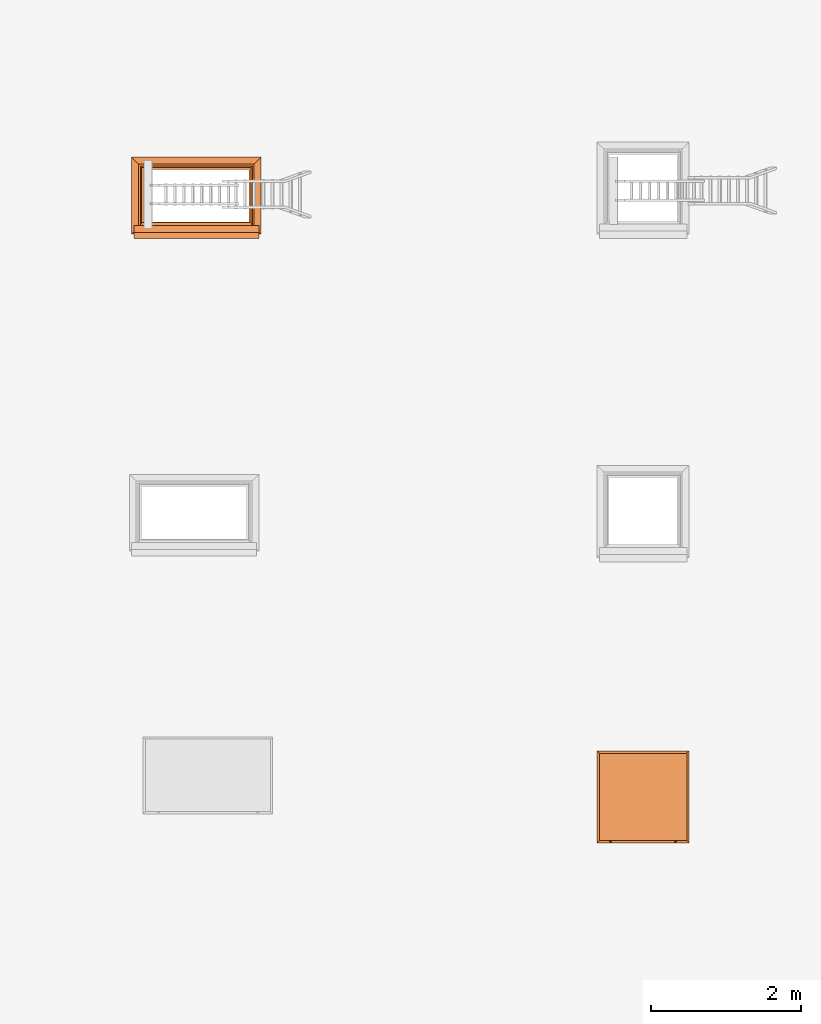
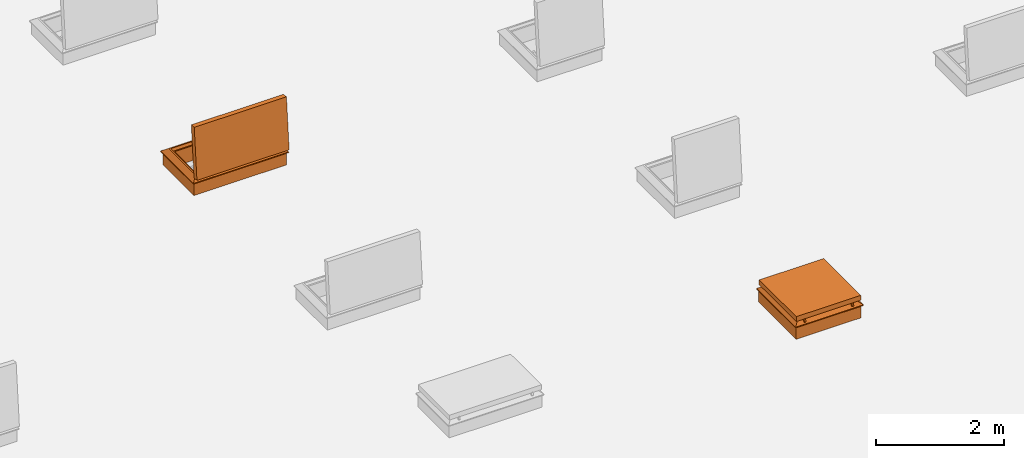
# One storey, part 23 of 28: 2 proxies.
"""IFC2X3 building model written with IfcOpenShell, lengths in millimetres."""

from ifc_helpers import new_model, entity, si_unit, converted_unit, derived_unit, direction, frame, origin, place, context, subcontext, project, spatial, faceted_brep, source, transform, mapped, type_object, type_shapes, element, save


model = new_model("IFC2X3")

# Units and contexts
model_context = context("Model", 3, precision=0.01, world=origin(), true_north=direction((6.12303176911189e-17, 1.0)))
body_context = subcontext(model_context, "Body", "Model", "MODEL_VIEW")
ifc_project = project(units=[si_unit("LENGTHUNIT", "METRE", prefix="MILLI"), si_unit("AREAUNIT", "SQUARE_METRE"), si_unit("VOLUMEUNIT", "CUBIC_METRE"), converted_unit("PLANEANGLEUNIT", "DEGREE", entity("IfcRatioMeasure", 0.0174532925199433), si_unit("PLANEANGLEUNIT", "RADIAN"), dimensions=[0, 0, 0, 0, 0, 0, 0]), si_unit("MASSUNIT", "GRAM", prefix="KILO"), derived_unit("MASSDENSITYUNIT", [(si_unit("MASSUNIT", "GRAM", prefix="KILO"), 1), (si_unit("LENGTHUNIT", "METRE"), -3)]), si_unit("TIMEUNIT", "SECOND"), si_unit("FREQUENCYUNIT", "HERTZ"), si_unit("THERMODYNAMICTEMPERATUREUNIT", "DEGREE_CELSIUS"), derived_unit("THERMALTRANSMITTANCEUNIT", [(si_unit("MASSUNIT", "GRAM", prefix="KILO"), 1), (si_unit("THERMODYNAMICTEMPERATUREUNIT", "KELVIN"), -1), (si_unit("TIMEUNIT", "SECOND"), -3)]), derived_unit("VOLUMETRICFLOWRATEUNIT", [(si_unit("LENGTHUNIT", "METRE"), 3), (si_unit("TIMEUNIT", "SECOND"), -1)]), si_unit("ELECTRICCURRENTUNIT", "AMPERE"), si_unit("ELECTRICVOLTAGEUNIT", "VOLT"), si_unit("POWERUNIT", "WATT"), si_unit("FORCEUNIT", "NEWTON", prefix="KILO"), si_unit("ILLUMINANCEUNIT", "LUX"), si_unit("LUMINOUSFLUXUNIT", "LUMEN"), si_unit("LUMINOUSINTENSITYUNIT", "CANDELA"), derived_unit("USERDEFINED", [(si_unit("MASSUNIT", "GRAM", prefix="KILO"), -1), (si_unit("LENGTHUNIT", "METRE"), -2), (si_unit("TIMEUNIT", "SECOND"), 3), (si_unit("LUMINOUSFLUXUNIT", "LUMEN"), 1)]), derived_unit("LINEARVELOCITYUNIT", [(si_unit("LENGTHUNIT", "METRE"), 1), (si_unit("TIMEUNIT", "SECOND"), -1)]), si_unit("PRESSUREUNIT", "PASCAL"), derived_unit("USERDEFINED", [(si_unit("LENGTHUNIT", "METRE"), -2), (si_unit("MASSUNIT", "GRAM", prefix="KILO"), 1), (si_unit("TIMEUNIT", "SECOND"), -2)])], contexts=[model_context])

# Site, building, storey
site_placement = place(None, origin())
site = spatial("IfcSite", under=ifc_project, at=site_placement, Name="Default", CompositionType="ELEMENT")
building_placement = place(site_placement, origin())
building = spatial("IfcBuilding", under=site, at=building_placement, CompositionType="ELEMENT")
storey_placement = place(building_placement, frame((0.0, 0.0, 4000.0)))
storey = spatial("IfcBuildingStorey", under=building, at=storey_placement, Name="Level 2", CompositionType="ELEMENT", Elevation=4000.0)

# Proxies
building_element_proxy_type_1 = type_object("IfcBuildingElementProxyType", Name="1400 x 700 2part Stair", PredefinedType="NOTDEFINED")
shared_shape_1 = source(origin(), body_context, "Body", "Brep", [
    faceted_brep([(-1499.57464776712, -351.993124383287, 340.652428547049), (-1499.57464776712, -350.619817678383, 341.518171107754), (-1499.57464776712, -349.079207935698, 342.030033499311), (-1499.57464776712, -347.460863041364, 342.158257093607), (-1499.57464776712, -345.858870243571, 341.89538723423), (-1499.57464776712, -344.366366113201, 341.256706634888), (-1499.57464776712, -343.070121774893, 340.279346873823), (-1499.57464776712, -342.045498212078, 339.020129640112), (-1499.57464776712, -341.352064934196, 337.552263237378), (-1499.57464776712, -341.030136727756, 335.961086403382), (-1499.57464776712, -341.098429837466, 334.339106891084), (-1499.57464776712, -340.635094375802, 329.90669213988), (-1499.57464776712, -337.979621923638, 326.327663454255), (-1499.57464776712, -304.11313780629, 313.826813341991), (-1499.57464776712, -350.965266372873, 276.345110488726), (-1499.57464776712, -360.90830222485, 288.773905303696), (-1499.57464776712, -361.276948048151, 290.251026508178), (-1499.57464776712, -361.242166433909, 291.7730570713), (-1499.57464776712, -353.932832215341, 338.078280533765), (-1499.57464776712, -353.119286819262, 339.483138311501), (-1472.20689636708, -337.979621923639, 326.327663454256), (-1472.20689636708, -304.113137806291, 313.826813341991), (-1472.20689636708, -350.965266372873, 276.345110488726), (-1472.20689636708, -360.90830222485, 288.773905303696), (-1489.14512741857, -360.908302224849, 288.773905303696), (-1488.70057290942, -361.276948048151, 290.251026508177), (-1472.20689636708, -361.276948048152, 290.251026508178), (-1472.20689636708, -361.242166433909, 291.7730570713), (-1489.14512741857, -361.242166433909, 291.7730570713), (-1472.20689636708, -353.932832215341, 338.078280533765), (-1472.20689636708, -353.119286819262, 339.483138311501), (-1472.20689636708, -351.993124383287, 340.652428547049), (-1472.20689636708, -350.619817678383, 341.518171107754), (-1472.20689636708, -349.079207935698, 342.030033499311), (-1472.20689636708, -347.460863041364, 342.158257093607), (-1472.20689636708, -345.858870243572, 341.89538723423), (-1472.20689636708, -343.070121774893, 340.279346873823), (-1472.20689636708, -344.366366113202, 341.256706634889), (-1472.20689636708, -342.045498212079, 339.020129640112), (-1472.20689636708, -341.352064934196, 337.552263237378), (-1472.20689636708, -341.030136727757, 335.961086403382), (-1472.20689636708, -341.098429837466, 334.339106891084), (-1472.20689636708, -340.635094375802, 329.90669213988)], [[[0, 1, 2, 3, 4, 5, 6, 7, 8, 9, 10, 11, 12, 13, 14, 15, 16, 17, 18, 19]], [[13, 12, 20, 21]], [[14, 13, 21, 22]], [[14, 22, 23, 24, 15]], [[25, 16, 15, 24, 23, 26]], [[25, 26, 27, 28, 17, 16]], [[18, 17, 28, 27, 29]], [[30, 19, 18, 29]], [[31, 0, 19, 30]], [[2, 1, 32, 33]], [[31, 32, 1, 0]], [[3, 2, 33, 34]], [[4, 3, 34, 35]], [[36, 6, 5, 37]], [[38, 7, 6, 36]], [[9, 8, 39, 40]], [[38, 39, 8, 7]], [[10, 9, 40, 41]], [[37, 5, 4, 35]], [[41, 42, 11, 10]], [[20, 12, 11, 42]], [[22, 21, 20, 42, 41, 40, 39, 38, 36, 37, 35, 34, 33, 32, 31, 30, 29, 27, 26, 23]]]),
    faceted_brep([(-182.337074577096, -360.908302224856, 288.773905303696), (-182.337074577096, -350.965266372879, 276.345110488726), (-152.350888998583, -350.965266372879, 276.345110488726), (-152.350888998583, -360.908302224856, 288.773905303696), (-161.478030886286, -360.908302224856, 288.773905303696), (-171.90755260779, -360.908302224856, 288.773905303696), (-182.337074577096, -304.113137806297, 313.826813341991), (-152.350888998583, -304.113137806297, 313.826813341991), (-182.337074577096, -337.979621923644, 326.327663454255), (-152.350888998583, -337.979621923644, 326.327663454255), (-152.350888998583, -341.098429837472, 334.339106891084), (-152.350888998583, -340.635094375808, 329.90669213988), (-182.337074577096, -340.635094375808, 329.90669213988), (-182.337074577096, -341.098429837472, 334.339106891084), (-152.350888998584, -353.119286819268, 339.483138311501), (-182.337074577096, -353.119286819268, 339.483138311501), (-182.337074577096, -353.932832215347, 338.078280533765), (-152.350888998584, -353.932832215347, 338.078280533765), (-152.350888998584, -351.993124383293, 340.652428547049), (-182.337074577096, -351.993124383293, 340.652428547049), (-182.337074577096, -349.079207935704, 342.030033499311), (-182.337074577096, -350.619817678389, 341.518171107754), (-152.350888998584, -350.619817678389, 341.518171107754), (-152.350888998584, -349.079207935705, 342.030033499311), (-182.337074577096, -347.460863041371, 342.158257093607), (-152.350888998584, -347.460863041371, 342.158257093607), (-182.337074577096, -345.858870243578, 341.89538723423), (-152.350888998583, -345.858870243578, 341.89538723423), (-152.350888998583, -344.366366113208, 341.256706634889), (-182.337074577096, -344.366366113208, 341.256706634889), (-152.350888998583, -343.070121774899, 340.279346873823), (-182.337074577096, -343.070121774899, 340.279346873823), (-182.337074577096, -341.352064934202, 337.552263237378), (-182.337074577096, -342.045498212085, 339.020129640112), (-152.350888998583, -342.045498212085, 339.020129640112), (-152.350888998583, -341.352064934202, 337.552263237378), (-182.337074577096, -341.030136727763, 335.961086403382), (-152.350888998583, -341.030136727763, 335.961086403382), (-182.337074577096, -361.242166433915, 291.7730570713), (-173.209933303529, -361.242166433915, 291.7730570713), (-162.780411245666, -361.242166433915, 291.7730570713), (-152.350888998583, -361.242166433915, 291.7730570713), (-152.350888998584, -361.276948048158, 290.251026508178), (-182.337074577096, -361.276948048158, 290.251026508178), (-166.692795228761, -361.28220209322, 290.300156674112)], [[[0, 1, 2, 3, 4, 5]], [[1, 6, 7, 2]], [[6, 8, 9, 7]], [[10, 11, 12, 13]], [[9, 8, 12, 11]], [[14, 15, 16, 17]], [[18, 19, 15, 14]], [[20, 21, 22, 23]], [[18, 22, 21, 19]], [[24, 20, 23, 25]], [[26, 24, 25, 27]], [[28, 29, 26, 27]], [[30, 31, 29, 28]], [[32, 33, 34, 35]], [[30, 34, 33, 31]], [[36, 32, 35, 37]], [[13, 36, 37, 10]], [[16, 38, 39, 40, 41, 17]], [[42, 4, 3]], [[43, 0, 5]], [[40, 42, 41]], [[39, 38, 43]], [[4, 42, 44]], [[44, 43, 5]], [[44, 5, 4]], [[39, 43, 44]], [[42, 40, 44]], [[40, 39, 44]], [[11, 10, 37, 35, 34, 30, 28, 27, 25, 23, 22, 18, 14, 17, 41, 42, 3, 2, 7, 9]], [[33, 32, 36, 13, 12, 8, 6, 1, 0, 43, 38, 16, 15, 19, 21, 20, 24, 26, 29, 31]]]),
    faceted_brep([(-61.2697623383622, 553.447095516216, 328.0), (30.7302376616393, 645.447095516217, 254.399999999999), (-1693.26976233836, 645.447095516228, 254.4), (-1601.26976233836, 553.447095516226, 328.0), (-105.269762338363, 509.447095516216, 282.0), (-85.7439207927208, 528.972937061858, 328.0), (-1576.795603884, 528.972937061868, 328.0), (-1557.26976233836, 509.447095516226, 282.0), (-131.269762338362, 483.447095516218, 0.0), (-131.269762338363, 483.447095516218, 282.0), (-1531.26976233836, 483.447095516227, 282.0), (-1531.26976233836, 483.447095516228, 0.0), (4.73023766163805, 619.447095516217, 240.0), (4.73023766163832, 619.447095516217, 0.0), (-1667.26976233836, 619.447095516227, 0.0), (-1667.26976233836, 619.447095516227, 240.0), (30.7302376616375, 645.447095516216, 240.0), (-1693.26976233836, 645.447095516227, 240.0), (-1693.26976233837, -378.552904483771, 254.4), (-1601.26976233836, -286.552904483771, 328.0), (-1576.79560388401, -262.078746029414, 328.0), (-1557.26976233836, -242.552904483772, 282.0), (-1531.26976233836, -216.552904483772, 282.0), (-1531.26976233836, -216.552904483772, 0.0), (-1667.26976233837, -352.552904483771, 0.0), (-1667.26976233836, -352.552904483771, 240.0), (-1693.26976233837, -378.552904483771, 240.0), (30.7302376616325, -378.552904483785, 254.4), (-61.2697623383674, -286.552904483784, 328.0), (-85.743920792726, -262.078746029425, 328.0), (-105.269762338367, -242.552904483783, 282.0), (-131.269762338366, -216.552904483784, 282.0), (-131.269762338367, -216.552904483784, 0.0), (4.73023766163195, -352.552904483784, 0.0), (4.73023766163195, -352.552904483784, 240.0), (30.7302376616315, -378.552904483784, 240.0)], [[[0, 1, 2, 3]], [[4, 5, 6, 7]], [[8, 9, 10, 11]], [[12, 13, 14, 15]], [[1, 16, 17, 2]], [[3, 2, 18, 19]], [[7, 6, 20, 21]], [[11, 10, 22, 23]], [[15, 14, 24, 25]], [[2, 17, 26, 18]], [[19, 18, 27, 28]], [[21, 20, 29, 30]], [[23, 22, 31, 32]], [[25, 24, 33, 34]], [[18, 26, 35, 27]], [[28, 27, 1, 0]], [[3, 19, 28, 0], [5, 29, 20, 6]], [[30, 29, 5, 4]], [[7, 21, 30, 4], [9, 31, 22, 10]], [[32, 31, 9, 8]], [[11, 23, 32, 8], [13, 33, 24, 14]], [[34, 33, 13, 12]], [[15, 25, 34, 12], [16, 35, 26, 17]], [[27, 35, 16, 1]]], outer=[[True], [True], [True], [True], [True], [True], [True], [True], [True], [True], [True], [True], [True], [True], [True], [True], [True, False], [True], [True, False], [True], [False, True], [True], [False, True], [True]]),
    faceted_brep([(-1534.26693391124, -367.286388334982, 1173.32805698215), (-1534.26693391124, -428.818342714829, 470.014600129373), (-128.272590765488, -428.81834271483, 470.014600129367), (-128.272590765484, -367.286388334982, 1173.32805698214), (-1534.26693391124, -228.416847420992, 1161.17854644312), (-128.272590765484, -228.416847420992, 1161.17854644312), (-128.272590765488, -289.94880180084, 457.865089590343), (-1534.26693391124, -289.94880180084, 457.86508959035)], [[[0, 1, 2, 3]], [[4, 5, 6, 7]], [[1, 0, 4, 7]], [[2, 1, 7, 6]], [[3, 2, 6, 5]], [[0, 3, 5, 4]]]),
    faceted_brep([(-128.272590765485, -228.416847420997, 1161.17854644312), (-128.272590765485, -367.286388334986, 1173.32805698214), (-1534.26693391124, -367.286388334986, 1173.32805698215), (-1534.26693391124, -228.416847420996, 1161.17854644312), (-85.2725907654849, -270.892584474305, 1208.05894492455), (-102.872590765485, -226.203091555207, 1186.48189177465), (-1559.66693391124, -226.203091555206, 1186.48189177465), (-1577.26693391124, -270.892584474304, 1208.05894492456), (0.727409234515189, -356.043297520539, 1301.83717303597), (0.727409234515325, -263.397190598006, 1293.73168896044), (-1663.26693391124, -263.397190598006, 1293.73168896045), (-1663.26693391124, -356.043297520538, 1301.83717303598), (-1534.26693391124, -428.818342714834, 470.014600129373), (-1534.26693391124, -289.948801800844, 457.865089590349), (-1559.66693391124, -292.162557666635, 432.561744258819), (-1577.26693391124, -339.919932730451, 419.072744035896), (-1663.26693391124, -347.41532660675, 333.400000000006), (-1663.26693391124, -440.061433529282, 341.505484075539), (-128.27259076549, -428.818342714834, 470.014600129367), (-128.27259076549, -289.948801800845, 457.865089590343), (-102.87259076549, -292.162557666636, 432.561744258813), (-85.2725907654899, -339.919932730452, 419.07274403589), (0.727409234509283, -347.41532660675, 333.399999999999), (0.727409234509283, -440.061433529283, 341.505484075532)], [[[0, 1, 2, 3]], [[4, 5, 6, 7]], [[8, 9, 10, 11]], [[3, 2, 12, 13]], [[7, 6, 14, 15]], [[11, 10, 16, 17]], [[13, 12, 18, 19]], [[15, 14, 20, 21]], [[17, 16, 22, 23]], [[19, 18, 1, 0]], [[3, 13, 19, 0], [5, 20, 14, 6]], [[21, 20, 5, 4]], [[7, 15, 21, 4], [9, 22, 16, 10]], [[23, 22, 9, 8]], [[1, 18, 12, 2], [11, 17, 23, 8]]], outer=[[True], [True], [True], [True], [True], [True], [True], [True], [True], [True], [False, True], [True], [False, True], [True], [False, True]]),
])
type_shapes(building_element_proxy_type_1, [shared_shape_1])
proxy_1_placement = place(storey_placement, frame((2641.32250918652, 5640.33582063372, 400.0)))
element("IfcBuildingElementProxy", 1, at=proxy_1_placement, inside=storey, type_object=building_element_proxy_type_1, Name="3_Topaccess_dakluik_1400x700_Staka:1400 x 700 2part Stair", ObjectType="1400 x 700 2part Stair", context=body_context, shape_type="MappedRepresentation", body=[
    mapped(shared_shape_1, transform((0.0, 0.0, 0.0), scale=1.0)),
])
building_element_proxy_type_2 = type_object("IfcBuildingElementProxyType", Name="900 x 900", PredefinedType="NOTDEFINED")
shared_shape_2 = source(origin(), body_context, "Body", "Brep", [
    faceted_brep([(-1025.81180060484, -352.9006607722, 333.094802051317), (-1025.81180060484, -352.274840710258, 333.878753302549), (-1025.81180060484, -351.473721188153, 334.482440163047), (-1025.81180060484, -350.547639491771, 334.867930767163), (-1025.81180060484, -349.554784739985, 335.011003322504), (-1025.81180060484, -348.557541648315, 334.902668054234), (-1025.81180060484, -347.618570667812, 334.549732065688), (-1025.81180060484, -346.796870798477, 333.974371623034), (-1025.81180060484, -346.1440724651, 333.212738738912), (-1025.81180060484, -345.701193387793, 332.31268960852), (-1025.81180060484, -345.496061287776, 331.330777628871), (-1025.81180060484, -345.541565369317, 330.328699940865), (-1025.81180060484, -345.834846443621, 329.369420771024), (-1025.81180060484, -346.357476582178, 328.513215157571), (-1025.81180060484, -347.076617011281, 327.813881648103), (-1025.81180060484, -347.442865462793, 324.584309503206), (-1025.81180060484, -344.763632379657, 322.744205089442), (-1025.81180060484, -309.427027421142, 309.700701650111), (-1025.81180060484, -356.910862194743, 271.713633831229), (-1025.81180060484, -365.245617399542, 282.132077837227), (-1025.81180060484, -366.655242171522, 284.948025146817), (-1025.81180060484, -366.7901943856, 288.094195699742), (-1025.81180060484, -353.311858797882, 332.179844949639), (-998.815024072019, -365.245617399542, 282.132077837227), (-998.815024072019, -366.655242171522, 284.948025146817), (-998.815024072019, -366.7901943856, 288.094195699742), (-998.815024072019, -353.311858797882, 332.179844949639), (-998.815024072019, -352.9006607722, 333.094802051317), (-998.815024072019, -352.274840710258, 333.878753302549), (-998.815024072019, -351.473721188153, 334.482440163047), (-998.815024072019, -349.554784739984, 335.011003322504), (-998.815024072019, -348.557541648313, 334.902668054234), (-998.815024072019, -350.54763949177, 334.867930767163), (-998.815024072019, -347.618570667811, 334.549732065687), (-998.815024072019, -346.796870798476, 333.974371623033), (-998.815024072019, -345.701193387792, 332.312689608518), (-998.815024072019, -346.1440724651, 333.21273873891), (-998.815024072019, -345.496061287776, 331.330777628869), (-998.815024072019, -345.834846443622, 329.369420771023), (-998.815024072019, -346.357476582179, 328.51321515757), (-998.815024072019, -345.541565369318, 330.328699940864), (-998.815024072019, -347.076617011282, 327.813881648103), (-998.815024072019, -347.442865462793, 324.584309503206), (-998.815024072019, -344.763632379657, 322.744205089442), (-998.815024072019, -309.427027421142, 309.700701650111), (-998.815024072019, -356.910862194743, 271.713633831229)], [[[0, 1, 2, 3, 4, 5, 6, 7, 8, 9, 10, 11, 12, 13, 14, 15, 16, 17, 18, 19, 20, 21, 22]], [[19, 23, 24, 20]], [[24, 25, 21, 20]], [[22, 21, 25, 26]], [[1, 0, 27, 28]], [[27, 0, 22, 26]], [[29, 2, 1, 28]], [[30, 31, 5, 4]], [[4, 3, 32, 30]], [[32, 3, 2, 29]], [[31, 33, 6, 5]], [[33, 34, 7, 6]], [[35, 9, 8, 36]], [[36, 8, 7, 34]], [[10, 9, 35, 37]], [[13, 12, 38, 39]], [[12, 11, 40, 38]], [[40, 11, 10, 37]], [[41, 14, 13, 39]], [[41, 42, 15, 14]], [[43, 16, 15, 42]], [[17, 16, 43, 44]], [[18, 17, 44, 45]], [[19, 18, 45, 23]], [[45, 44, 43, 42, 41, 39, 38, 40, 37, 35, 36, 34, 33, 31, 30, 32, 29, 28, 27, 26, 25, 24, 23]]]),
    faceted_brep([(-165.338675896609, -365.245617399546, 282.132077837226), (-134.95889484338, -365.245617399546, 282.132077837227), (-134.95889484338, -366.655242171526, 284.948025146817), (-165.338675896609, -366.655242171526, 284.948025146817), (-134.95889484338, -366.790194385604, 288.094195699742), (-165.338675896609, -366.790194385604, 288.094195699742), (-165.338675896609, -353.311858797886, 332.179844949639), (-134.95889484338, -353.311858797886, 332.179844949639), (-134.95889484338, -352.900660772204, 333.094802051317), (-165.338675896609, -352.900660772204, 333.094802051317), (-165.338675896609, -352.274840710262, 333.878753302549), (-134.95889484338, -352.274840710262, 333.878753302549), (-134.95889484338, -351.473721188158, 334.482440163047), (-165.338675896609, -351.473721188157, 334.482440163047), (-165.338675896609, -349.554784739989, 335.011003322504), (-165.338675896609, -350.547639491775, 334.867930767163), (-134.95889484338, -350.547639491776, 334.867930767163), (-134.95889484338, -349.554784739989, 335.011003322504), (-134.95889484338, -348.557541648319, 334.902668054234), (-165.338675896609, -348.557541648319, 334.902668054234), (-134.95889484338, -347.618570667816, 334.549732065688), (-165.338675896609, -347.618570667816, 334.549732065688), (-134.95889484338, -346.796870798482, 333.974371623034), (-165.338675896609, -346.796870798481, 333.974371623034), (-134.95889484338, -346.144072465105, 333.212738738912), (-165.338675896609, -346.144072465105, 333.212738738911), (-165.338675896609, -345.701193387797, 332.31268960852), (-134.95889484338, -345.701193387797, 332.31268960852), (-134.95889484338, -345.49606128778, 331.330777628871), (-165.338675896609, -345.49606128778, 331.330777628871), (-165.338675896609, -345.834846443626, 329.369420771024), (-165.338675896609, -345.541565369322, 330.328699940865), (-134.95889484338, -345.541565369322, 330.328699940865), (-134.95889484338, -345.834846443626, 329.369420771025), (-134.95889484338, -346.357476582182, 328.513215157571), (-165.338675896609, -346.357476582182, 328.513215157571), (-134.95889484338, -347.076617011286, 327.813881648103), (-165.338675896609, -347.076617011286, 327.813881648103), (-134.95889484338, -347.442865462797, 324.584309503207), (-165.338675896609, -347.442865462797, 324.584309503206), (-134.95889484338, -344.763632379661, 322.744205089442), (-165.338675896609, -344.763632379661, 322.744205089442), (-165.338675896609, -309.427027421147, 309.700701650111), (-134.95889484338, -309.427027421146, 309.700701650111), (-165.338675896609, -356.910862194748, 271.713633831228), (-134.95889484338, -356.910862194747, 271.713633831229)], [[[0, 1, 2, 3]], [[2, 4, 5, 3]], [[6, 5, 4, 7]], [[8, 9, 6, 7]], [[10, 9, 8, 11]], [[11, 12, 13, 10]], [[14, 15, 16, 17]], [[17, 18, 19, 14]], [[12, 16, 15, 13]], [[18, 20, 21, 19]], [[20, 22, 23, 21]], [[24, 25, 23, 22]], [[26, 25, 24, 27]], [[27, 28, 29, 26]], [[30, 31, 32, 33]], [[33, 34, 35, 30]], [[28, 32, 31, 29]], [[34, 36, 37, 35]], [[36, 38, 39, 37]], [[40, 41, 39, 38]], [[42, 41, 40, 43]], [[44, 42, 43, 45]], [[0, 44, 45, 1]], [[43, 40, 38, 36, 34, 33, 32, 28, 27, 24, 22, 20, 18, 17, 16, 12, 11, 8, 7, 4, 2, 1, 45]], [[30, 35, 37, 39, 41, 42, 44, 0, 3, 5, 6, 9, 10, 13, 15, 14, 19, 21, 23, 25, 26, 29, 31]]]),
    faceted_brep([(-61.2697623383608, 753.447095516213, 328.0), (30.7302376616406, 845.447095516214, 254.4), (-1193.26976233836, 845.447095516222, 254.4), (-1101.26976233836, 753.44709551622, 328.0), (-105.269762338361, 709.447095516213, 282.0), (-85.7439207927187, 728.972937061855, 328.0), (-1076.795603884, 728.972937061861, 328.0), (-1057.26976233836, 709.447095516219, 282.0), (-131.26976233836, 683.447095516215, 0.0), (-131.26976233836, 683.447095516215, 282.0), (-1031.26976233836, 683.447095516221, 282.0), (-1031.26976233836, 683.447095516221, 0.0), (4.73023766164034, 819.447095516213, 240.0), (4.73023766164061, 819.447095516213, 0.0), (-1167.26976233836, 819.447095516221, 0.0), (-1167.26976233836, 819.44709551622, 240.0), (30.7302376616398, 845.447095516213, 240.0), (-1193.26976233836, 845.447095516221, 240.0), (-1193.26976233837, -378.552904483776, 254.4), (-1101.26976233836, -286.552904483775, 328.0), (-1076.79560388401, -262.078746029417, 328.0), (-1057.26976233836, -242.552904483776, 282.0), (-1031.26976233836, -216.552904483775, 282.0), (-1031.26976233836, -216.552904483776, 0.0), (-1167.26976233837, -352.552904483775, 0.0), (-1167.26976233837, -352.552904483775, 240.0), (-1193.26976233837, -378.552904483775, 240.0), (30.7302376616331, -378.552904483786, 254.4), (-61.2697623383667, -286.552904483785, 328.0), (-85.7439207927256, -262.078746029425, 328.0), (-105.269762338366, -242.552904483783, 282.0), (-131.269762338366, -216.552904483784, 282.0), (-131.269762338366, -216.552904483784, 0.0), (4.73023766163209, -352.552904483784, 0.0), (4.73023766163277, -352.552904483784, 240.0), (30.730237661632, -378.552904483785, 240.0)], [[[0, 1, 2, 3]], [[4, 5, 6, 7]], [[8, 9, 10, 11]], [[12, 13, 14, 15]], [[1, 16, 17, 2]], [[3, 2, 18, 19]], [[7, 6, 20, 21]], [[11, 10, 22, 23]], [[15, 14, 24, 25]], [[2, 17, 26, 18]], [[19, 18, 27, 28]], [[21, 20, 29, 30]], [[23, 22, 31, 32]], [[25, 24, 33, 34]], [[18, 26, 35, 27]], [[28, 27, 1, 0]], [[3, 19, 28, 0], [5, 29, 20, 6]], [[30, 29, 5, 4]], [[7, 21, 30, 4], [9, 31, 22, 10]], [[32, 31, 9, 8]], [[11, 23, 32, 8], [13, 33, 24, 14]], [[34, 33, 13, 12]], [[15, 25, 34, 12], [16, 35, 26, 17]], [[27, 35, 16, 1]]], outer=[[True], [True], [True], [True], [True], [True], [True], [True], [True], [True], [True], [True], [True], [True], [True], [True], [True, False], [True], [True, False], [True], [False, True], [True], [False, True], [True]]),
    faceted_brep([(-1033.97259076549, 682.584673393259, 426.399999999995), (-1033.97259076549, -218.415326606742, 426.399999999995), (-128.272590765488, -218.415326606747, 426.399999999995), (-128.272590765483, 682.584673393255, 426.399999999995), (-1033.97259076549, 682.584673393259, 287.0), (-128.272590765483, 682.584673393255, 287.0), (-128.272590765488, -218.415326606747, 287.0), (-1033.97259076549, -218.415326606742, 287.0)], [[[0, 1, 2, 3]], [[4, 5, 6, 7]], [[1, 0, 4, 7]], [[2, 1, 7, 6]], [[3, 2, 6, 5]], [[0, 3, 5, 4]]]),
    faceted_brep([(-128.272590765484, 682.584673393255, 287.0), (-128.272590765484, 682.584673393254, 426.399999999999), (-1033.97259076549, 682.584673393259, 426.399999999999), (-1033.97259076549, 682.584673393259, 287.0), (-85.2725907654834, 725.584673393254, 333.399999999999), (-102.872590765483, 707.984673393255, 287.0), (-1059.37259076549, 707.984673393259, 287.0), (-1076.97259076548, 725.584673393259, 333.399999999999), (0.727409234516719, 811.584673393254, 426.399999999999), (0.727409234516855, 811.584673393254, 333.399999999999), (-1162.97259076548, 811.584673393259, 333.399999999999), (-1162.97259076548, 811.584673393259, 426.399999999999), (-1033.97259076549, -218.415326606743, 426.399999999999), (-1033.97259076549, -218.415326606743, 287.0), (-1059.37259076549, -243.815326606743, 287.0), (-1076.97259076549, -261.415326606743, 333.399999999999), (-1162.97259076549, -347.415326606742, 333.399999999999), (-1162.97259076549, -347.415326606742, 426.399999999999), (-128.27259076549, -218.415326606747, 426.399999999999), (-128.272590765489, -218.415326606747, 287.0), (-102.872590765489, -243.815326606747, 287.0), (-85.2725907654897, -261.415326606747, 333.399999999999), (0.727409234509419, -347.415326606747, 333.399999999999), (0.727409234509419, -347.415326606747, 426.399999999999)], [[[0, 1, 2, 3]], [[4, 5, 6, 7]], [[8, 9, 10, 11]], [[3, 2, 12, 13]], [[7, 6, 14, 15]], [[11, 10, 16, 17]], [[13, 12, 18, 19]], [[15, 14, 20, 21]], [[17, 16, 22, 23]], [[19, 18, 1, 0]], [[3, 13, 19, 0], [5, 20, 14, 6]], [[21, 20, 5, 4]], [[7, 15, 21, 4], [9, 22, 16, 10]], [[23, 22, 9, 8]], [[1, 18, 12, 2], [11, 17, 23, 8]]], outer=[[True], [True], [True], [True], [True], [True], [True], [True], [True], [True], [False, True], [True], [False, True], [True], [False, True]]),
])
type_shapes(building_element_proxy_type_2, [shared_shape_2])
proxy_2_placement = place(storey_placement, frame((8335.61306223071, -2459.6641793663, 400.0)))
element("IfcBuildingElementProxy", 2, at=proxy_2_placement, inside=storey, type_object=building_element_proxy_type_2, Name="2_Topaccess_dakluik_900x900_Staka:900 x 900", ObjectType="900 x 900", context=body_context, shape_type="MappedRepresentation", body=[
    mapped(shared_shape_2, transform((0.0, 0.0, 0.0), scale=1.0)),
])

save(model, "model.ifc")
